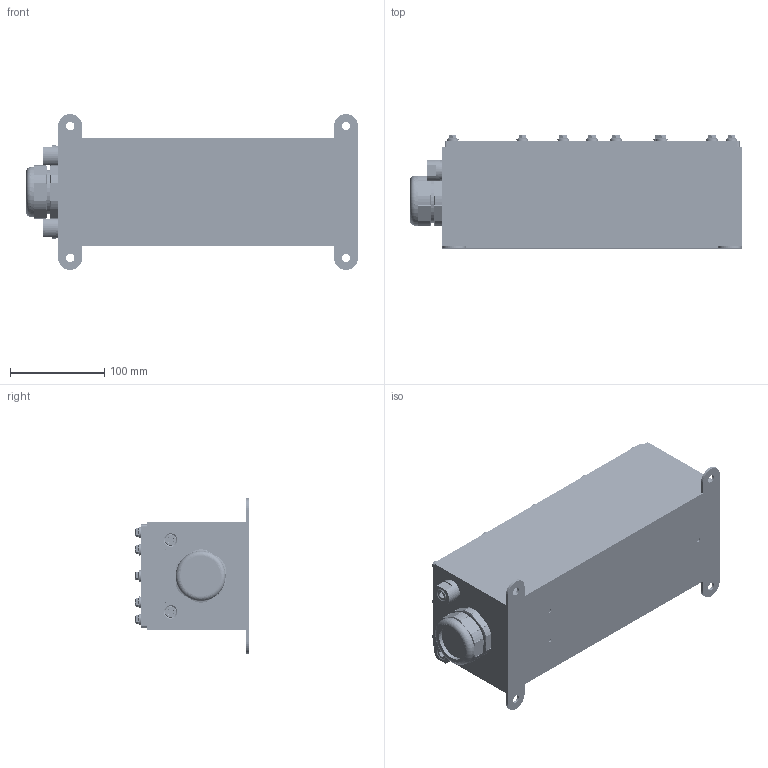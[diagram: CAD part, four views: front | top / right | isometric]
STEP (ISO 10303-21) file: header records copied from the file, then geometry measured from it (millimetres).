
FILE_DESCRIPTION (( 'STEP AP203' ), '1' );
FILE_NAME ('LL-FK.STEP', '2023-03-07T15:40:55', ( '' ), ( '' ), 'SwSTEP 2.0', 'SolidWorks 2021', '' );
FILE_SCHEMA (( 'CONFIG_CONTROL_DESIGN' ));
Length unit declared in the file: inch
Products named in the file (28): PG36-S01; 201754; 800004; PG36-N03; Gocator-2440_Body; SP-M5-2; PG36-I01; 4452K542_4452K542; 201752; LL-FK; PG11-S01; 93625A200; 800001; 800020; PG36-B01; 500501; 400102; PG11-N03; 400104; 400652; 200335; 201753; 800009; 201755; 800023; 800005; PG36-01-01-01-03; 92125A188_92125A188
Assembly tree (80 placements, depth 3):
  LL-FK
    201752
      201753
      SP-M5-2  x12
      800001  x3
    201754
    201755
    400652
    PG36-01-01-01-03
      PG36-B01
      PG36-I01
      PG36-S01
      PG36-N03
    800009  x2
    PG11-S01  x2
    PG11-N03  x2
    4452K542_4452K542  x2
    200335  x2
    400104  x4
    500501  x2
    93625A200  x11
    800023  x8
      800020
      400102
    800004  x12
      800005
      400102
    Gocator-2440_Body
    92125A188_92125A188  x3
Bounding box: 351.5 x 119.86 x 165.1 mm (x, y, z)
Volume: 1267010 mm3; surface area: 597663.9 mm2
Topology: 106 solids, 106 shells, 6399 faces, 16617 edges, 10733 vertices
Faces by surface type: cylinder 2916, plane 2004, cone 1000, bspline 416, torus 48, sphere 15
Entity records: 130157 total; most frequent: CARTESIAN_POINT 53250, ORIENTED_EDGE 15700, DIRECTION 14304, EDGE_CURVE 7850, AXIS2_PLACEMENT_3D 5286, VERTEX_POINT 5052, VECTOR 3732, LINE 3732
